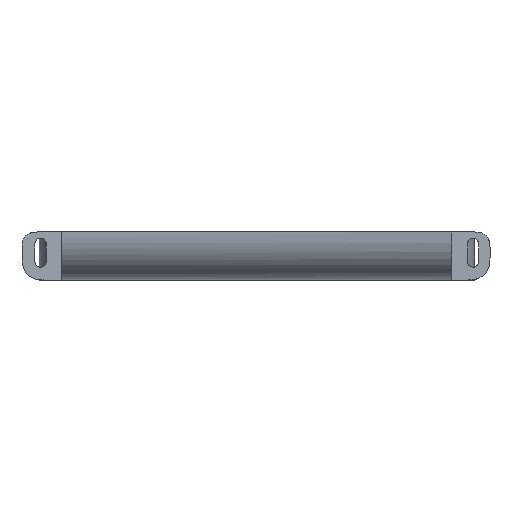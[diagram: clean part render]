
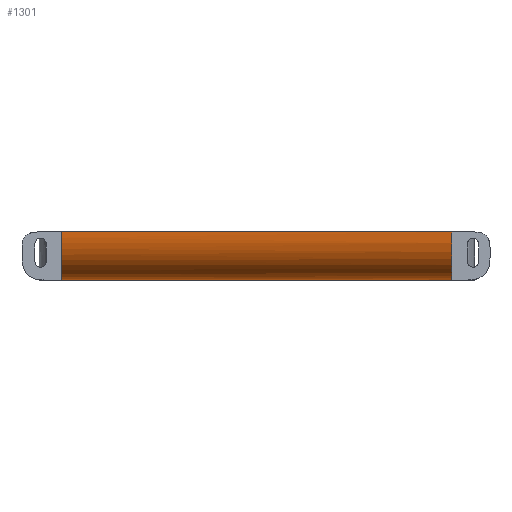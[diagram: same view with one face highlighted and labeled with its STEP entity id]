
A CAD part, left-side view. The second image highlights one B-rep face of the part: STEP entity #1301.
In plain terms, the highlighted free-form (B-spline) face has degree [3, 1] with [11, 2] control points.
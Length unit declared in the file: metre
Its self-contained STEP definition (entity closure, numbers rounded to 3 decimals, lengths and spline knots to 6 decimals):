
#27=B_SPLINE_SURFACE_WITH_KNOTS('',3,1,((#3029,#3030),(#3031,#3032),(#3033,
#3034),(#3035,#3036),(#3037,#3038),(#3039,#3040),(#3041,#3042),(#3043,#3044),
(#3045,#3046),(#3047,#3048),(#3049,#3050)),.SURF_OF_LINEAR_EXTRUSION.,.F.,
 .F.,.F.,(4,1,1,1,1,1,1,1,4),(2,2),(0.,0.113463,
0.226925,0.340388,0.453851,0.567313,
0.680776,0.794239,0.907701),(0.,1.),
 .UNSPECIFIED.);
#30=B_SPLINE_CURVE_WITH_KNOTS('',3,(#1757,#1758,#1759,#1760),
 .UNSPECIFIED.,.F.,.F.,(4,4),(0.,1.),.UNSPECIFIED.);
#45=B_SPLINE_CURVE_WITH_KNOTS('',3,(#2170,#2171,#2172,#2173,#2174,#2175,
#2176,#2177,#2178,#2179,#2180,#2181,#2182,#2183,#2184,#2185,#2186,#2187,
#2188,#2189,#2190,#2191,#2192,#2193,#2194,#2195,#2196,#2197,#2198,#2199,
#2200,#2201,#2202,#2203),.UNSPECIFIED.,.F.,.F.,(4,1,1,1,1,1,1,1,1,1,1,1,
1,1,1,1,1,1,1,1,1,1,1,1,1,1,1,1,1,1,1,4),(0.,0.03125,0.046875,0.054688,
0.0625,0.070313,0.078125,0.09375,0.109375,0.125,0.140625,0.15625,0.1875,
0.21875,0.25,0.28125,0.3125,0.34375,0.375,0.40625,0.4375,0.5,0.625,0.6875,
0.71875,0.734375,0.75,0.765625,0.78125,0.8125,0.875,1.),.UNSPECIFIED.);
#46=B_SPLINE_CURVE_WITH_KNOTS('',3,(#2206,#2207,#2208,#2209,#2210,#2211,
#2212,#2213,#2214,#2215,#2216,#2217,#2218,#2219,#2220,#2221,#2222,#2223,
#2224,#2225,#2226,#2227,#2228,#2229,#2230,#2231,#2232,#2233,#2234,#2235,
#2236,#2237,#2238,#2239,#2240),.UNSPECIFIED.,.F.,.F.,(4,1,1,1,1,1,1,1,1,
1,1,1,1,1,1,1,1,1,1,1,1,1,1,1,1,1,1,1,1,1,1,1,4),(0.,0.125,0.1875,0.21875,
0.234375,0.25,0.265625,0.28125,0.3125,0.375,0.4375,0.5,0.5625,0.59375,0.625,
0.65625,0.6875,0.71875,0.75,0.78125,0.8125,0.84375,0.859375,0.875,0.890625,
0.90625,0.921875,0.929688,0.9375,0.945313,0.953125,0.96875,1.),
 .UNSPECIFIED.);
#49=B_SPLINE_CURVE_WITH_KNOTS('',3,(#2264,#2265,#2266,#2267),
 .UNSPECIFIED.,.F.,.F.,(4,4),(0.,1.),.UNSPECIFIED.);
#646=ORIENTED_EDGE('',*,*,#742,.F.);
#647=ORIENTED_EDGE('',*,*,#678,.F.);
#648=ORIENTED_EDGE('',*,*,#740,.F.);
#649=ORIENTED_EDGE('',*,*,#751,.F.);
#678=EDGE_CURVE('',#857,#859,#30,.T.);
#740=EDGE_CURVE('',#911,#857,#45,.T.);
#742=EDGE_CURVE('',#859,#913,#46,.T.);
#751=EDGE_CURVE('',#913,#911,#49,.T.);
#857=VERTEX_POINT('',#1755);
#859=VERTEX_POINT('',#1761);
#911=VERTEX_POINT('',#2168);
#913=VERTEX_POINT('',#2241);
#1099=EDGE_LOOP('',(#646,#647,#648,#649));
#1207=FACE_BOUND('',#1099,.T.);
#1301=ADVANCED_FACE('',(#1207),#27,.T.);
#1755=CARTESIAN_POINT('',(-0.103342,0.114728,0.0215));
#1757=CARTESIAN_POINT('',(-0.103342,0.114728,0.0215));
#1758=CARTESIAN_POINT('',(-0.103342,0.056503,0.0215));
#1759=CARTESIAN_POINT('',(-0.103342,-0.001722,0.0215));
#1760=CARTESIAN_POINT('',(-0.103342,-0.059947,0.0215));
#1761=CARTESIAN_POINT('',(-0.103342,-0.059947,0.0215));
#2168=CARTESIAN_POINT('',(-0.078411,0.114728,0.));
#2170=CARTESIAN_POINT('',(-0.078411,0.114728,0.));
#2171=CARTESIAN_POINT('',(-0.078917,0.114728,0.));
#2172=CARTESIAN_POINT('',(-0.079589,0.114728,0.000003));
#2173=CARTESIAN_POINT('',(-0.080206,0.114728,0.00001));
#2174=CARTESIAN_POINT('',(-0.080531,0.114728,0.000017));
#2175=CARTESIAN_POINT('',(-0.080703,0.114728,0.00002));
#2176=CARTESIAN_POINT('',(-0.081045,0.114728,0.00003));
#2177=CARTESIAN_POINT('',(-0.081434,0.114728,0.000045));
#2178=CARTESIAN_POINT('',(-0.081928,0.114728,0.000069));
#2179=CARTESIAN_POINT('',(-0.082499,0.114728,0.000106));
#2180=CARTESIAN_POINT('',(-0.083024,0.114728,0.000148));
#2181=CARTESIAN_POINT('',(-0.083637,0.114728,0.000209));
#2182=CARTESIAN_POINT('',(-0.084412,0.114728,0.000303));
#2183=CARTESIAN_POINT('',(-0.085375,0.114728,0.000449));
#2184=CARTESIAN_POINT('',(-0.086506,0.114728,0.000672));
#2185=CARTESIAN_POINT('',(-0.087581,0.114728,0.000931));
#2186=CARTESIAN_POINT('',(-0.088742,0.114728,0.001269));
#2187=CARTESIAN_POINT('',(-0.089837,0.114728,0.001646));
#2188=CARTESIAN_POINT('',(-0.090915,0.114728,0.002079));
#2189=CARTESIAN_POINT('',(-0.091935,0.114728,0.002547));
#2190=CARTESIAN_POINT('',(-0.093012,0.114728,0.003111));
#2191=CARTESIAN_POINT('',(-0.094342,0.114728,0.003911));
#2192=CARTESIAN_POINT('',(-0.096509,0.114728,0.005482));
#2193=CARTESIAN_POINT('',(-0.09858,0.114728,0.007672));
#2194=CARTESIAN_POINT('',(-0.100057,0.114728,0.009947));
#2195=CARTESIAN_POINT('',(-0.100713,0.114728,0.01118));
#2196=CARTESIAN_POINT('',(-0.101059,0.114728,0.0119));
#2197=CARTESIAN_POINT('',(-0.101318,0.114728,0.01248));
#2198=CARTESIAN_POINT('',(-0.101523,0.114728,0.012971));
#2199=CARTESIAN_POINT('',(-0.101795,0.114728,0.013669));
#2200=CARTESIAN_POINT('',(-0.102224,0.114728,0.0149));
#2201=CARTESIAN_POINT('',(-0.102926,0.114728,0.017472));
#2202=CARTESIAN_POINT('',(-0.103249,0.114728,0.019843));
#2203=CARTESIAN_POINT('',(-0.103342,0.114728,0.0215));
#2206=CARTESIAN_POINT('',(-0.103342,-0.059947,0.0215));
#2207=CARTESIAN_POINT('',(-0.10325,-0.059947,0.019856));
#2208=CARTESIAN_POINT('',(-0.102931,-0.059947,0.017502));
#2209=CARTESIAN_POINT('',(-0.102238,-0.059947,0.014947));
#2210=CARTESIAN_POINT('',(-0.101815,-0.059947,0.013724));
#2211=CARTESIAN_POINT('',(-0.101546,-0.059947,0.01303));
#2212=CARTESIAN_POINT('',(-0.101345,-0.059947,0.012544));
#2213=CARTESIAN_POINT('',(-0.101087,-0.059947,0.011959));
#2214=CARTESIAN_POINT('',(-0.100741,-0.059947,0.011236));
#2215=CARTESIAN_POINT('',(-0.100086,-0.059947,0.009996));
#2216=CARTESIAN_POINT('',(-0.099033,-0.059947,0.008364));
#2217=CARTESIAN_POINT('',(-0.097573,-0.059947,0.006606));
#2218=CARTESIAN_POINT('',(-0.095917,-0.059947,0.005055));
#2219=CARTESIAN_POINT('',(-0.094376,-0.059947,0.003934));
#2220=CARTESIAN_POINT('',(-0.09305,-0.059947,0.003133));
#2221=CARTESIAN_POINT('',(-0.091975,-0.059947,0.002566));
#2222=CARTESIAN_POINT('',(-0.09096,-0.059947,0.002098));
#2223=CARTESIAN_POINT('',(-0.089886,-0.059947,0.001664));
#2224=CARTESIAN_POINT('',(-0.088793,-0.059947,0.001285));
#2225=CARTESIAN_POINT('',(-0.087638,-0.059947,0.000947));
#2226=CARTESIAN_POINT('',(-0.086555,-0.059947,0.000683));
#2227=CARTESIAN_POINT('',(-0.085419,-0.059947,0.000457));
#2228=CARTESIAN_POINT('',(-0.084452,-0.059947,0.000309));
#2229=CARTESIAN_POINT('',(-0.083673,-0.059947,0.000213));
#2230=CARTESIAN_POINT('',(-0.083057,-0.059947,0.000151));
#2231=CARTESIAN_POINT('',(-0.082527,-0.059947,0.000108));
#2232=CARTESIAN_POINT('',(-0.081951,-0.059947,0.00007));
#2233=CARTESIAN_POINT('',(-0.081454,-0.059947,0.000046));
#2234=CARTESIAN_POINT('',(-0.081061,-0.059947,0.000031));
#2235=CARTESIAN_POINT('',(-0.080715,-0.059947,0.000021));
#2236=CARTESIAN_POINT('',(-0.080544,-0.059947,0.000017));
#2237=CARTESIAN_POINT('',(-0.080216,-0.059947,0.000011));
#2238=CARTESIAN_POINT('',(-0.079596,-0.059947,0.000003));
#2239=CARTESIAN_POINT('',(-0.07892,-0.059947,0.));
#2240=CARTESIAN_POINT('',(-0.078411,-0.059947,0.));
#2241=CARTESIAN_POINT('',(-0.078411,-0.059947,0.));
#2264=CARTESIAN_POINT('',(-0.078411,-0.059947,0.));
#2265=CARTESIAN_POINT('',(-0.078411,-0.001722,0.));
#2266=CARTESIAN_POINT('',(-0.078411,0.056503,0.));
#2267=CARTESIAN_POINT('',(-0.078411,0.114728,0.));
#3029=CARTESIAN_POINT('',(-0.078411,-0.059947,0.));
#3030=CARTESIAN_POINT('',(-0.078411,0.114728,0.));
#3031=CARTESIAN_POINT('',(-0.07983,-0.059947,0.));
#3032=CARTESIAN_POINT('',(-0.07983,0.114728,0.));
#3033=CARTESIAN_POINT('',(-0.082687,-0.059947,0.000014));
#3034=CARTESIAN_POINT('',(-0.082687,0.114728,0.000014));
#3035=CARTESIAN_POINT('',(-0.087251,-0.059947,0.000703));
#3036=CARTESIAN_POINT('',(-0.087251,0.114728,0.000703));
#3037=CARTESIAN_POINT('',(-0.09181,-0.059947,0.002305));
#3038=CARTESIAN_POINT('',(-0.09181,0.114728,0.002305));
#3039=CARTESIAN_POINT('',(-0.095885,-0.059947,0.00483));
#3040=CARTESIAN_POINT('',(-0.095885,0.114728,0.00483));
#3041=CARTESIAN_POINT('',(-0.099119,-0.059947,0.008228));
#3042=CARTESIAN_POINT('',(-0.099119,0.114728,0.008228));
#3043=CARTESIAN_POINT('',(-0.101478,-0.059947,0.01243));
#3044=CARTESIAN_POINT('',(-0.101478,0.114728,0.01243));
#3045=CARTESIAN_POINT('',(-0.102903,-0.059947,0.017025));
#3046=CARTESIAN_POINT('',(-0.102903,0.114728,0.017025));
#3047=CARTESIAN_POINT('',(-0.10326,-0.059947,0.020039));
#3048=CARTESIAN_POINT('',(-0.10326,0.114728,0.020039));
#3049=CARTESIAN_POINT('',(-0.103342,-0.059947,0.0215));
#3050=CARTESIAN_POINT('',(-0.103342,0.114728,0.0215));
